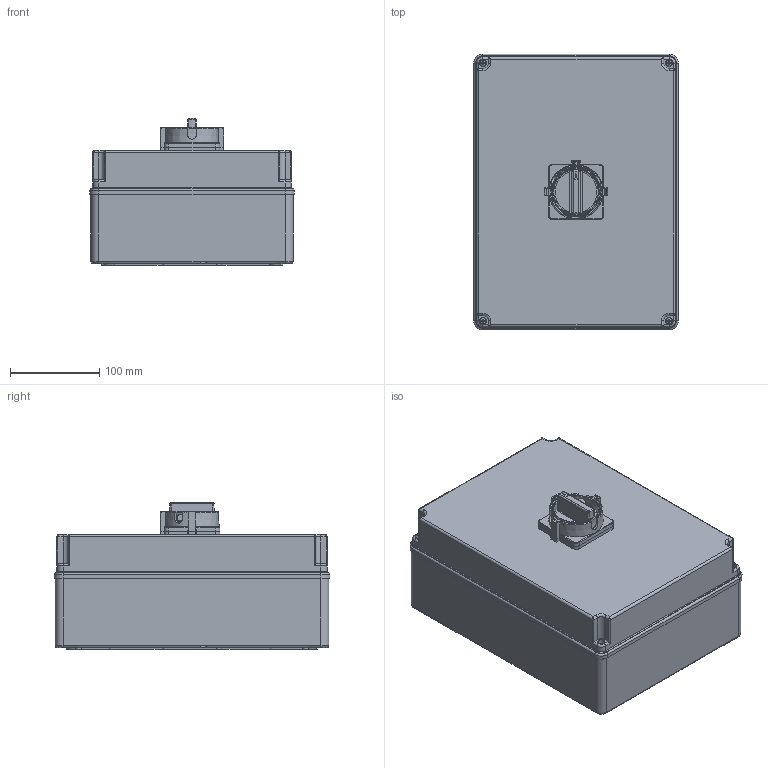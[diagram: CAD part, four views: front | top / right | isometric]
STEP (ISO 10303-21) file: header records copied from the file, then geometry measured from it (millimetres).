
FILE_DESCRIPTION(/* description */ (''),/* implementation_level */ '2;1');
FILE_NAME(/* name */ '4002953.stp',/* time_stamp */ '2020-07-14T07:57:45+02:00',/* author */ (''),/* organization */ (''),/* preprocessor_version */ 'ST-DEVELOPER v16.7',/* originating_system */ 'SIEMENS PLM Software NX 1926',/* authorisation */ '');
FILE_SCHEMA (('AUTOMOTIVE_DESIGN { 1 0 10303 214 3 1 1 1 }'));
Products named in the file (1): RGGM05600399g3eg
Bounding box: 228.4 x 308.4 x 165.1 mm (x, y, z)
Volume: 857609.5 mm3; surface area: 661519.4 mm2
Topology: 15 solids, 16 shells, 1816 faces, 4767 edges, 3019 vertices
Faces by surface type: plane 887, cylinder 399, cone 283, torus 139, bspline 87, sphere 21
Full cylindrical faces by diameter (mm): 2.4 x4, 2.5 x10, 2.8 x9, 3 x2, 3.2 x8, 3.5 x4, 4 x5, 4.4 x4, 5.3 x4, 7 x5, 7.5 x4, 7.8 x4, 8 x4, 10 x4, 14 x1, 22 x1, 22.5 x1, 24 x1, 25 x2, 31.5 x1
Entity records: 66130 total; most frequent: CARTESIAN_POINT 19815, ORIENTED_EDGE 8900, DIRECTION 8779, EDGE_CURVE 4450, AXIS2_PLACEMENT_3D 3133, VERTEX_POINT 2900, LINE 2513, VECTOR 2513
